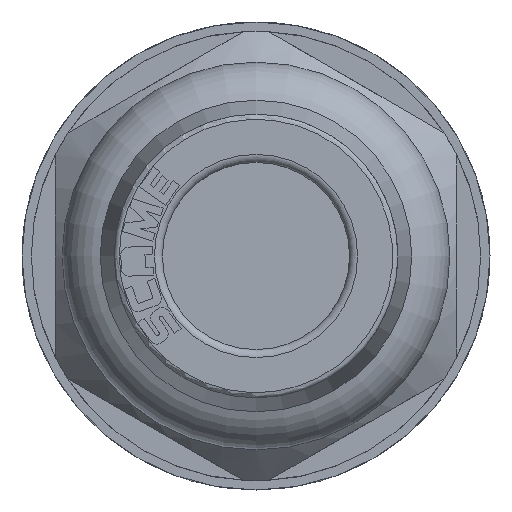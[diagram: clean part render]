
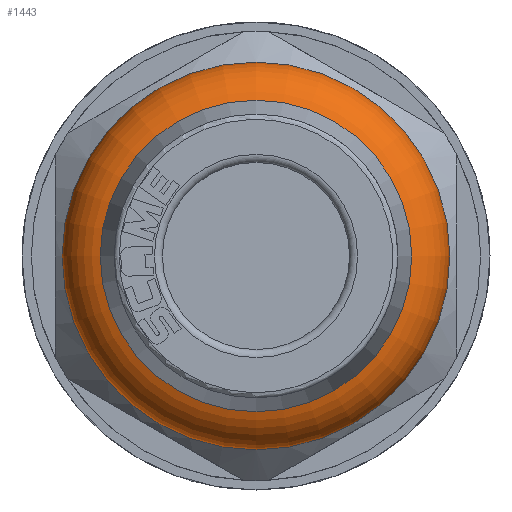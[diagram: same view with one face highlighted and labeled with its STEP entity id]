
A CAD part, left-side view. The second image highlights one B-rep face of the part: STEP entity #1443.
In plain terms, the highlighted toroidal (fillet/blend) face has major radius 5.248 mm and minor radius 2.002 mm.
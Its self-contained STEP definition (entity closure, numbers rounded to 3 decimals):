
#41=TOROIDAL_SURFACE('',#4915,5.248,2.002);
#1182=FACE_BOUND('',#1943,.T.);
#1183=FACE_BOUND('',#1944,.T.);
#1443=ADVANCED_FACE('',(#1182,#1183),#41,.T.);
#1943=EDGE_LOOP('',(#2556));
#1944=EDGE_LOOP('',(#2557));
#2556=ORIENTED_EDGE('',*,*,#4158,.F.);
#2557=ORIENTED_EDGE('',*,*,#4159,.T.);
#3495=VERTEX_POINT('',#7357);
#3496=VERTEX_POINT('',#7359);
#4158=EDGE_CURVE('',#3495,#3495,#4674,.T.);
#4159=EDGE_CURVE('',#3496,#3496,#4675,.T.);
#4674=CIRCLE('',#4913,7.25);
#4675=CIRCLE('',#4914,5.825);
#4913=AXIS2_PLACEMENT_3D('',#7356,#5567,#5568);
#4914=AXIS2_PLACEMENT_3D('',#7358,#5569,#5570);
#4915=AXIS2_PLACEMENT_3D('',#7360,#5571,#5572);
#5567=DIRECTION('',(1.,0.,0.));
#5568=DIRECTION('',(0.,1.,0.));
#5569=DIRECTION('',(1.,0.,0.));
#5570=DIRECTION('',(0.,1.,0.));
#5571=DIRECTION('',(1.,0.,0.));
#5572=DIRECTION('',(0.,1.,0.));
#7356=CARTESIAN_POINT('',(-27.5,0.,0.));
#7357=CARTESIAN_POINT('',(-27.5,7.25,0.));
#7358=CARTESIAN_POINT('',(-29.417,0.,0.));
#7359=CARTESIAN_POINT('',(-29.417,5.825,0.));
#7360=CARTESIAN_POINT('',(-27.5,0.,0.));
